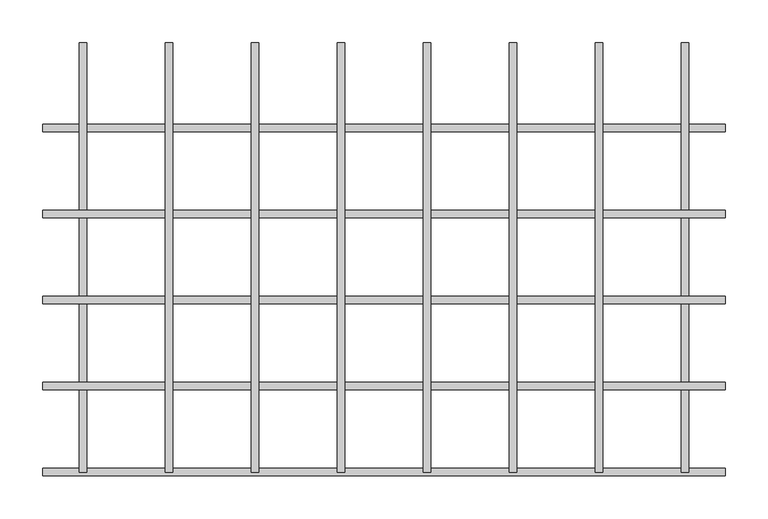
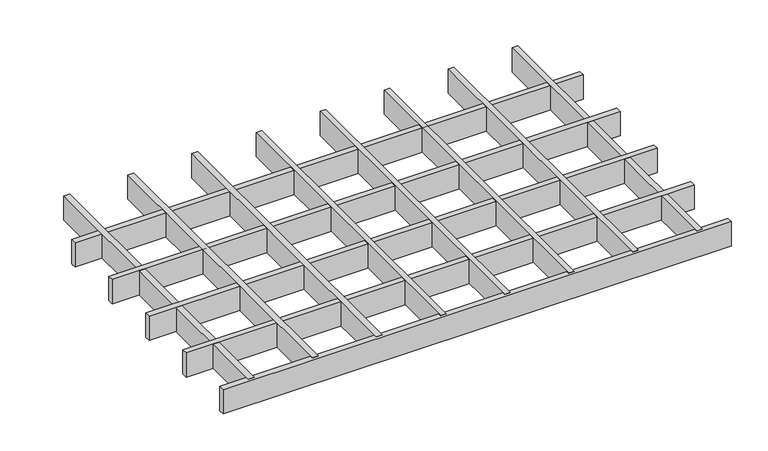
"""IFC4 building model written with IfcOpenShell, lengths in millimetres: proxy geometry, durlum_GEO_panel : durlum_GEO_9_corner_cut."""

from ifc_helpers import new_model, si_unit, origin, origin_with_axes, place, context, project, spatial, polyline, outline, extrude, source, transform, mapped, element, save


def generic_models_6bcacae0(model_context):
    return source(origin(), model_context, "Body", "SweptSolid", [
        extrude(outline(polyline([(245.5, 249.5), (254.5, 249.5), (254.5, -249.5), (245.5, -249.5), (245.5, 249.5)])), origin_with_axes(), (0.0, 0.0, 1.0), 40.0),
        extrude(outline(polyline([(145.5, 249.5), (154.5, 249.5), (154.5, -249.5), (145.5, -249.5), (145.5, 249.5)])), origin_with_axes(), (0.0, 0.0, 1.0), 40.0),
        extrude(outline(polyline([(45.5, 249.5), (54.5, 249.5), (54.5, -249.5), (45.5, -249.5), (45.5, 249.5)])), origin_with_axes(), (0.0, 0.0, 1.0), 40.0),
        extrude(outline(polyline([(-54.5, 249.5), (-45.5, 249.5), (-45.5, -249.5), (-54.5, -249.5), (-54.5, 249.5)])), origin_with_axes(), (0.0, 0.0, 1.0), 40.0),
        extrude(outline(polyline([(-154.5, 249.5), (-145.5, 249.5), (-145.5, -249.5), (-154.5, -249.5), (-154.5, 249.5)])), origin_with_axes(), (0.0, 0.0, 1.0), 40.0),
        extrude(outline(polyline([(-254.5, 249.5), (-245.5, 249.5), (-245.5, -249.5), (-254.5, -249.5), (-254.5, 249.5)])), origin_with_axes(), (0.0, 0.0, 1.0), 40.0),
        extrude(outline(polyline([(396.5628516, -145.0), (396.5628516, -154.0), (-396.5628516, -154.0), (-396.5628516, -145.0), (396.5628516, -145.0)])), origin_with_axes(), (0.0, 0.0, 1.0), 40.0),
        extrude(outline(polyline([(396.5628516, -45.0), (396.5628516, -54.0), (-396.5628516, -54.0), (-396.5628516, -45.0), (396.5628516, -45.0)])), origin_with_axes(), (0.0, 0.0, 1.0), 40.0),
        extrude(outline(polyline([(396.5628516, 55.0), (396.5628516, 46.0), (-396.5628516, 46.0), (-396.5628516, 55.0), (396.5628516, 55.0)])), origin_with_axes(), (0.0, 0.0, 1.0), 40.0),
        extrude(outline(polyline([(345.5, 249.5), (354.5, 249.5), (354.5, -249.5), (345.5, -249.5), (345.5, 249.5)])), origin_with_axes(), (0.0, 0.0, 1.0), 40.0),
        extrude(outline(polyline([(-354.5, 249.5), (-345.5, 249.5), (-345.5, -249.5), (-354.5, -249.5), (-354.5, 249.5)])), origin_with_axes(), (0.0, 0.0, 1.0), 40.0),
        extrude(outline(polyline([(396.5628516, -245.0), (396.5628516, -254.0), (-396.5628516, -254.0), (-396.5628516, -245.0), (396.5628516, -245.0)])), origin_with_axes(), (0.0, 0.0, 1.0), 40.0),
        extrude(outline(polyline([(396.5628516, 155.0), (396.5628516, 146.0), (-396.5628516, 146.0), (-396.5628516, 155.0), (396.5628516, 155.0)])), origin_with_axes(), (0.0, 0.0, 1.0), 40.0),
    ])


if __name__ == "__main__":
    model = new_model("IFC4")
    model_context = context("Model", 3, world=origin())
    ifc_project = project(units=[si_unit("LENGTHUNIT", "METRE", prefix="MILLI")], contexts=[model_context])
    site = spatial("IfcSite", under=ifc_project)
    building = spatial("IfcBuilding", under=site)
    placement = place(None, origin())
    generic_models_shape = generic_models_6bcacae0(model_context)
    element("IfcBuildingElementProxy", 1, Name="durlum_GEO_panel : durlum_GEO_9_corner_cut", ObjectType="durlum_GEO_panel : durlum_GEO_9_corner_cut", at=placement, inside=building, context=model_context, shape_type="MappedRepresentation", body=[
        mapped(generic_models_shape, transform((0.0, 0.0, 0.0), x_axis=(1.0, 0.0, 0.0), y_axis=(0.0, 1.0, 0.0), z_axis=(0.0, 0.0, 1.0))),
    ])
    save(model, "model.ifc")
